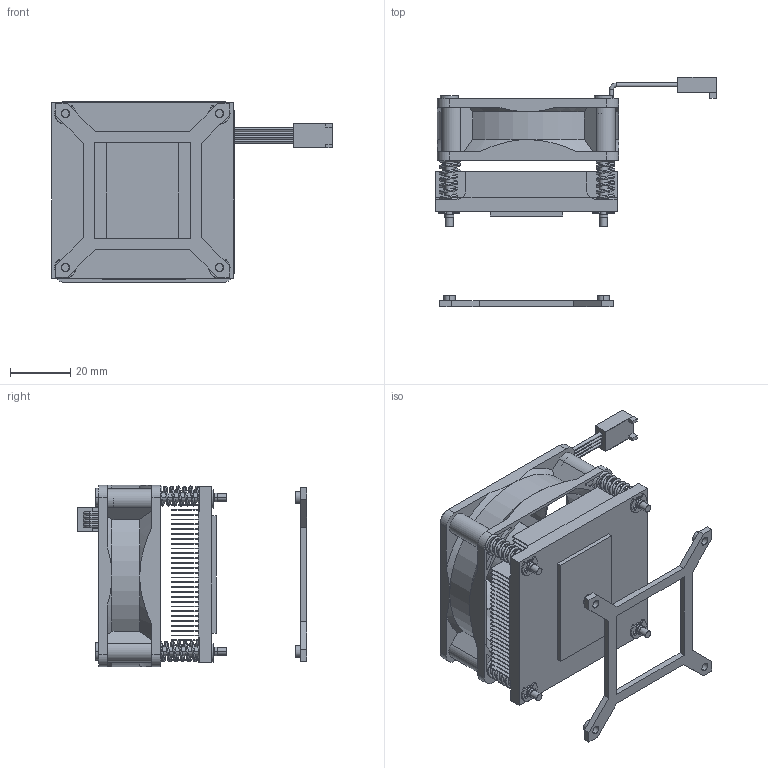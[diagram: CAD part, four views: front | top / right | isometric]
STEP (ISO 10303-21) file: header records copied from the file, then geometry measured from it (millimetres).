
FILE_DESCRIPTION((''),'2;1');
FILE_NAME('JAC3D53C-A-2300_B_ASM','2025-05-05T14:45:05',('isaac_lin'),(''),'CREO PARAMETRIC BY PTC INC, 2024273','CREO PARAMETRIC BY PTC INC, 2024273','');
FILE_SCHEMA(('CONFIG_CONTROL_DESIGN'));
Length unit declared in the file: millimetre
Products named in the file (34): PRT0588; PRT0589; ASM0014_ASM_ASM; ASM0013_ASM_ASM; PRT0590; ASM0016_ASM_ASM; ASM0015_ASM_ASM; PRT0591; PRT0592; PRT0593; PRT0594; PRT0595; PRT0596; PRT0597; PRT0598; ASM0012_ASM_ASM; PRT0599; PRT0600; PRT0601; PRT0602; ASM0011_ASM_ASM; PRT0603; ASM0010_ASM_ASM; PRT0629; PRT0630; PRT0631; PRT0632; PRT0633; ASM0024_ASM_ASM_ASM; ASM0023_ASM_ASM_ASM; ASM0025_ASM_ASM; ASM0022_ASM_ASM_ASM; ASM0009_ASM_ASM; JAC3D53C-A-2300_B_ASM
Assembly tree (33 placements, depth 8):
  JAC3D53C-A-2300_B_ASM
    ASM0009_ASM_ASM
      ASM0010_ASM_ASM
        ASM0011_ASM_ASM
          ASM0012_ASM_ASM
            ASM0013_ASM_ASM
              ASM0014_ASM_ASM
                PRT0588
                PRT0589
            ASM0015_ASM_ASM
              ASM0016_ASM_ASM
                PRT0590
            PRT0591
            PRT0592
            PRT0593
            PRT0594
            PRT0595
            PRT0596
            PRT0597
            PRT0598
          PRT0599
          PRT0600
          PRT0601
          PRT0602
        PRT0603
      ASM0022_ASM_ASM_ASM
        ASM0025_ASM_ASM
          PRT0629
          ASM0023_ASM_ASM_ASM
            ASM0024_ASM_ASM_ASM
              PRT0630
              PRT0631
              PRT0632
              PRT0633
Bounding box: 92.84 x 75.95 x 60 mm (x, y, z)
Volume: 49529.3 mm3; surface area: 71791.8 mm2
Topology: 21 solids, 22 shells, 861 faces, 2340 edges, 1571 vertices
Faces by surface type: plane 462, cylinder 267, bspline 65, torus 42, cone 25
Entity records: 44754 total; most frequent: CARTESIAN_POINT 21890, DIRECTION 4740, ORIENTED_EDGE 4676, EDGE_CURVE 2340, AXIS2_PLACEMENT_3D 1722, VERTEX_POINT 1571, VECTOR 1296, LINE 1296
